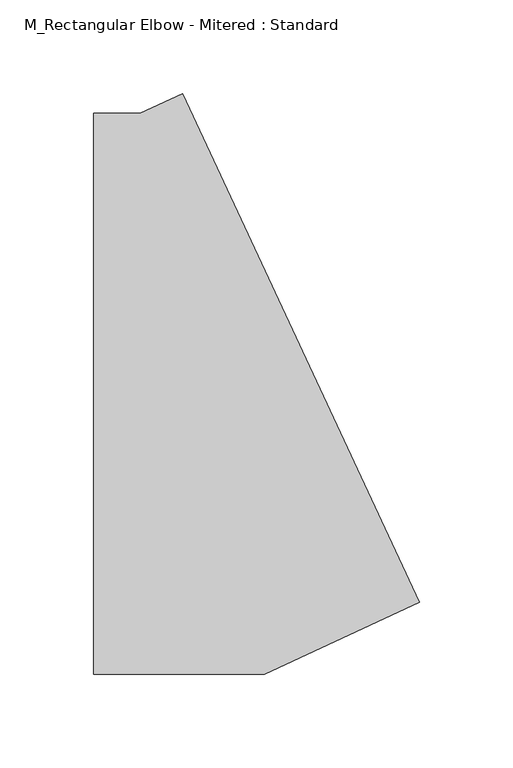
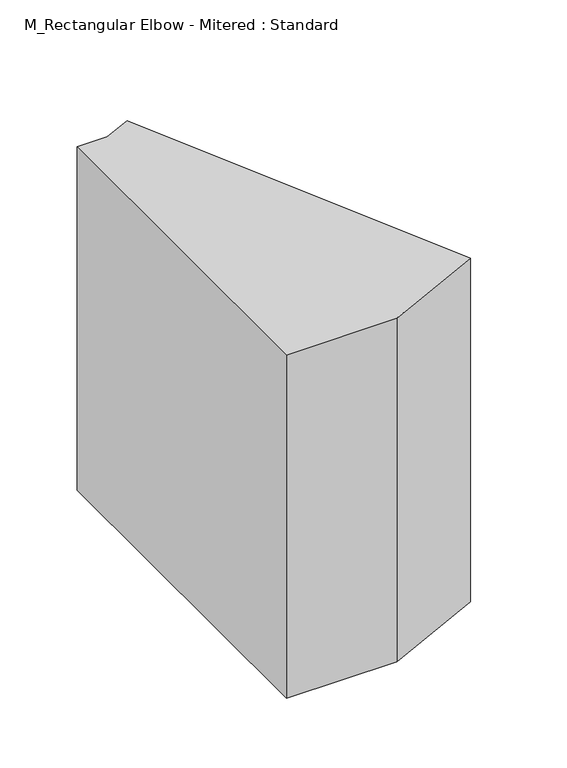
"""IFC4 building model written with IfcOpenShell, lengths in millimetres: duct fitting geometry, M_Rectangular Elbow - Mitered : Standard."""

from ifc_helpers import new_model, si_unit, frame, origin, place, context, project, spatial, polyline, outline, extrude, source, transform, mapped, element, save


def m_rectangular_elbow_mitered_standard_bb41a724(model_context):
    return source(origin(), model_context, "Body", "SweptSolid", [
        extrude(outline(polyline([(-58.2541994, -150.0), (-58.2541994, 150.0), (-33.2541994, 150.0), (-10.5965047, 160.5654565), (116.1889738, -111.3268796), (33.2541994, -150.0), (-58.2541994, -150.0)])), frame((0.0, 0.0, -150.0), z_axis=(0.0, 0.0, 1.0), x_axis=(1.0, 0.0, 0.0)), (0.0, 0.0, 1.0), 300.0),
        extrude(outline(polyline([(-58.2541994, -150.0), (-58.2541994, 150.0), (-33.2541994, 150.0), (-10.5965047, 160.5654565), (116.1889738, -111.3268796), (33.2541994, -150.0), (-58.2541994, -150.0)])), frame((0.0, 0.0, -150.0), z_axis=(0.0, 0.0, 1.0), x_axis=(1.0, 0.0, 0.0)), (0.0, 0.0, 1.0), 300.0),
        extrude(outline(polyline([(-58.2541994, -150.0), (-58.2541994, 150.0), (-33.2541994, 150.0), (-10.5965047, 160.5654565), (116.1889738, -111.3268796), (33.2541994, -150.0), (-58.2541994, -150.0)])), frame((0.0, 0.0, -150.0), z_axis=(0.0, 0.0, 1.0), x_axis=(1.0, 0.0, 0.0)), (0.0, 0.0, 1.0), 300.0),
    ])


if __name__ == "__main__":
    model = new_model("IFC4")
    model_context = context("Model", 3, world=origin())
    ifc_project = project(units=[si_unit("LENGTHUNIT", "METRE", prefix="MILLI")], contexts=[model_context])
    site = spatial("IfcSite", under=ifc_project)
    building = spatial("IfcBuilding", under=site)
    placement = place(None, origin())
    m_rectangular_elbow_mitered_standard_shape = m_rectangular_elbow_mitered_standard_bb41a724(model_context)
    element("IfcDuctFitting", 1, ObjectType="M_Rectangular Elbow - Mitered : Standard", at=placement, inside=building, context=model_context, shape_type="MappedRepresentation", body=[
        mapped(m_rectangular_elbow_mitered_standard_shape, transform((0.0, 0.0, 0.0), x_axis=(1.0, 0.0, 0.0), y_axis=(0.0, 1.0, 0.0), z_axis=(0.0, 0.0, 1.0))),
    ])
    save(model, "model.ifc")
